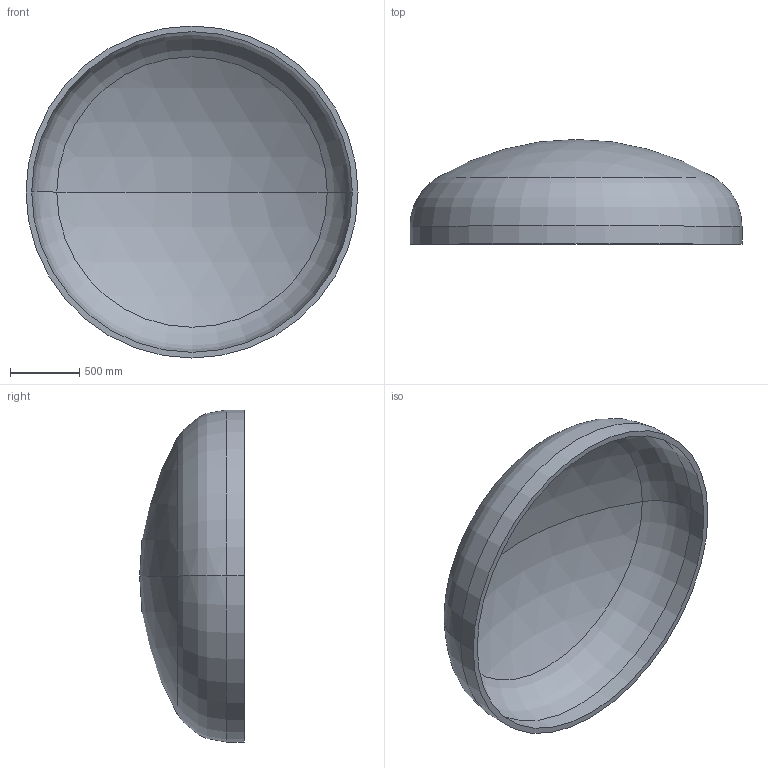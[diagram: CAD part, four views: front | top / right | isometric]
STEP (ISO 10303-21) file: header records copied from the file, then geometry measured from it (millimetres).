
FILE_DESCRIPTION (( 'STEP AP203' ), '1' );
FILE_NAME ('DIN 28013 Korbbogenform_-_Boden DIN 28013 - 2400 x 130 - I - s=41.step', '2016-07-01T15:21:42', ( '' ), ( '' ), 'SwSTEP 2.0', 'SolidWorks 2013', '' );
FILE_SCHEMA (( 'CONFIG_CONTROL_DESIGN' ));
Length unit declared in the file: millimetre
Products named in the file (1): DIN 28013 Korbbogenform_-_Boden DIN 28013 - 2400 x 130 - I - s=41
Bounding box: 2400 x 756.84 x 2400 mm (x, y, z)
Volume: 290717267.2 mm3; surface area: 14488697.8 mm2
Topology: 1 solids, 1 shells, 13 faces, 24 edges, 14 vertices
Faces by surface type: torus 4, cylinder 4, sphere 4, plane 1
Entity records: 407 total; most frequent: DIRECTION 72, CARTESIAN_POINT 52, ORIENTED_EDGE 48, AXIS2_PLACEMENT_3D 34, EDGE_CURVE 24, CIRCLE 20, VERTEX_POINT 14, EDGE_LOOP 14
